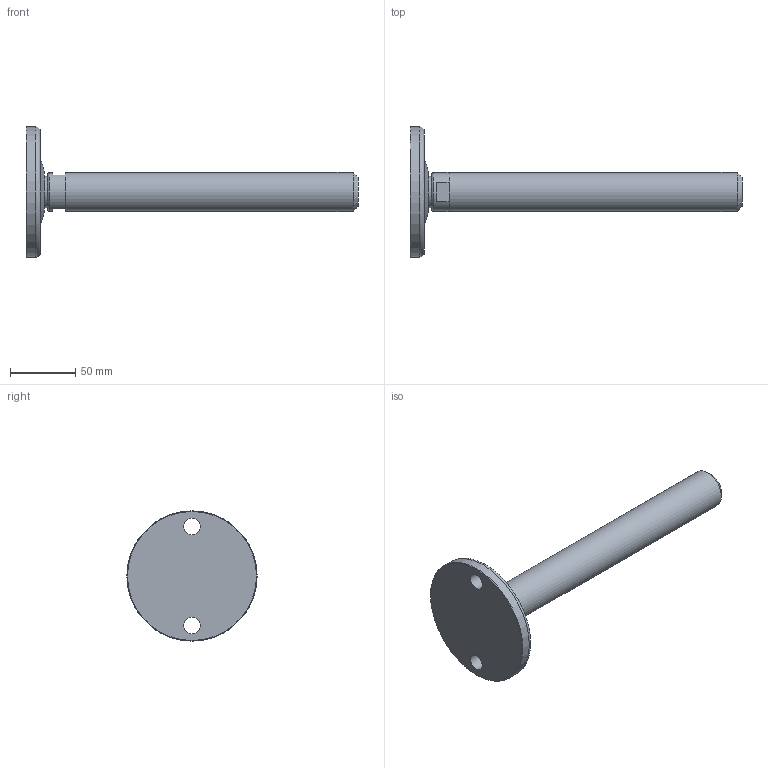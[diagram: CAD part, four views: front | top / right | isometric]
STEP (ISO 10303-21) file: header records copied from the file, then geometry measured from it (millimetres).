
FILE_DESCRIPTION(('STEP AP203'),'2;1');
FILE_NAME('15220.stp','2016-09-21T15:12:23',(''),(''),'2008.1.107','THINKDESIGN','');
FILE_SCHEMA(('CONFIG_CONTROL_DESIGN'));
Length unit declared in the file: millimetre
Bounding box: 255 x 100 x 100 mm (x, y, z)
Volume: 253492.7 mm3; surface area: 46132.8 mm2
Topology: 4 solids, 4 shells, 32 faces, 82 edges, 63 vertices
Faces by surface type: plane 15, bspline 10, cylinder 7
Full cylindrical faces by diameter (mm): 12.5 x2, 14.7 x1, 24 x1, 30 x2, 100 x1
Entity records: 1881 total; most frequent: CARTESIAN_POINT 870, DIRECTION 186, ORIENTED_EDGE 160, AXIS2_PLACEMENT_3D 82, EDGE_CURVE 80, CIRCLE 60, VERTEX_POINT 59, EDGE_LOOP 39
